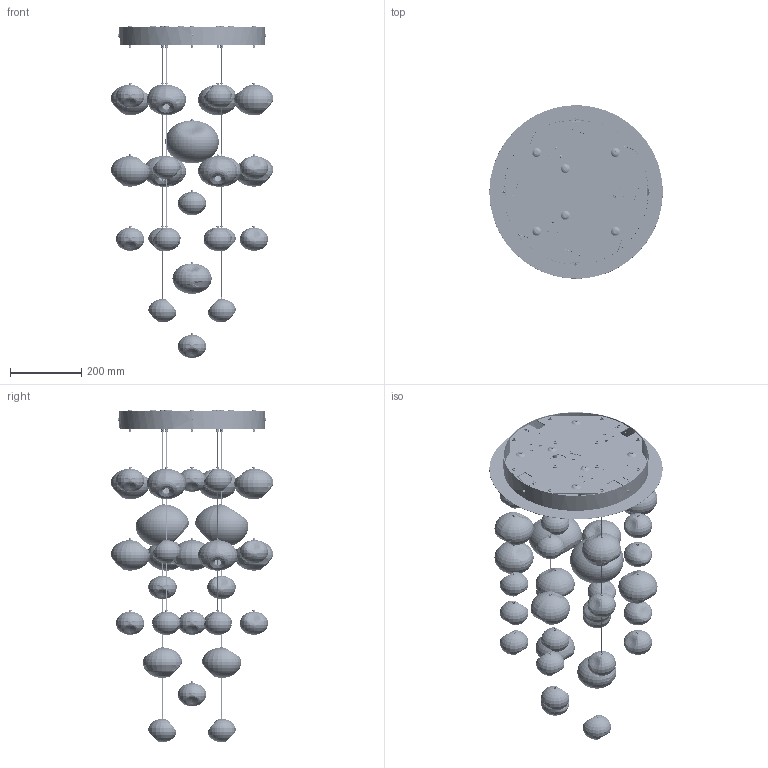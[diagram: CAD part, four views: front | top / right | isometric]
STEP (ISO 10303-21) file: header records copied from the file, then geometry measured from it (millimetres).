
FILE_DESCRIPTION(/* description */ (''),/* implementation_level */ '2;1');
FILE_NAME(/* name */ 'ETHER ROUND Ø48,5',/* time_stamp */ '2025-09-04T16:03:08+02:00',/* author */ (''),/* organization */ (''),/* preprocessor_version */ 'ST-DEVELOPER v16.5',/* originating_system */ 'Rhino 7.38',/* authorisation */ '');
FILE_SCHEMA (('CONFIG_CONTROL_DESIGN'));
Products named in the file (50): Document; 146C020-F; 146C016-B; 146C014; 146C013; SEEGER N.4 ZINCATO minetti; 00146C012; 146C020-D; 146C011; 146C020-B; 146C016-D; 146C020-A; 146C016-C; 146C015; 146C001; 146C010-G-927; Z0022; C026-927; C005; C008; B005; Vite TSP CR M3x8 zincata; VITE TC AUTOFIL M2,9X9,5 ZN UNI6954AB DIN7981C; K001; R001-36; 146C005; RONDELLA Ø7 H2 F.Ø3.2 STEAB 5021-2-118; VITE AUTOFIL. Ø2.9X6.5 TCC UNI 6954 AB; VITE TCEI M3X25 UNI5931 ZB; E007-0,5A; W037; Z017-P; W042; W044; Z0009; 146C006; X0072; 146C007; 146C007-1; X0057-008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
Assembly tree (160 placements, depth 3):
  Document
    146C020-F  x4
      146C016-B
      146C014
      146C013
      SEEGER N.4 ZINCATO minetti
      00146C012
    146C020-D  x4
      146C016-B
      146C014
      146C013
      SEEGER N.4 ZINCATO minetti
      146C011
    146C020-B  x2
      146C016-D
      146C014
      SEEGER N.4 ZINCATO minetti
      146C011
      146C013
    146C020-A  x2
      146C016-C
      146C015
      146C014
      146C013
      SEEGER N.4 ZINCATO minetti
      146C011
    146C001
    146C010-G-927  x3
      Z0022
      C026-927
      C005
      C008
      B005
      Vite TSP CR M3x8 zincata
      VITE TC AUTOFIL M2,9X9,5 ZN UNI6954AB DIN7981C
      K001
      R001-36
      146C005
      RONDELLA Ø7 H2 F.Ø3.2 STEAB 5021-2-118
      VITE AUTOFIL. Ø2.9X6.5 TCC UNI 6954 AB
      VITE TCEI M3X25 UNI5931 ZB
      E007-0,5A
      W037
      Z017-P
      W042
      W044
    Z0009  x12
    146C006  x12
    X0072  x12
    146C007
      146C007-1
      X0057-008  x5
    VITE TCEI M4X12 UNI5931 ZB  x4
    W027-G(_FS)V
    Z017-C
    VITE TCEI M4X6 UNI5931 ZB  x4
    RONDELLA M4 D.12 H1 ZINCATA DIN9021  x4
    DADO M4 DIN934 ZB  x4
    Z0033  x4
      Z0008
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Bounding box: 484.69 x 484.43 x 928.81 mm (x, y, z)
Volume: 1874842.9 mm3; surface area: 2779833 mm2
Topology: 302 solids, 314 shells, 11752 faces, 30920 edges, 20394 vertices
Faces by surface type: plane 5946, cylinder 3355, bspline 2451
Full cylindrical faces by diameter (mm): 0.65 x5, 0.88 x6, 1 x45, 1.02 x1, 1.15 x12, 1.25 x4, 1.5 x12, 2 x24, 2.25 x6, 2.3 x12, 2.459 x17, 2.8 x6, 2.9 x22, 3 x61, 3.1 x6, 3.2 x9, 3.242 x12, 3.3 x18, 3.5 x12, 4 x32, 4.3 x12, 4.9 x3, 5 x4, 5.5 x17, 5.6 x6, 5.8 x3, 6 x12, 6.5 x30, 6.6 x6, 7 x25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
Entity records: 353787 total; most frequent: CARTESIAN_POINT 292772, ORIENTED_EDGE 15373, EDGE_CURVE 7688, VERTEX_POINT 5085, B_SPLINE_CURVE_WITH_KNOTS 4989, EDGE_LOOP 3247, ADVANCED_FACE 2845, FACE_OUTER_BOUND 2845
